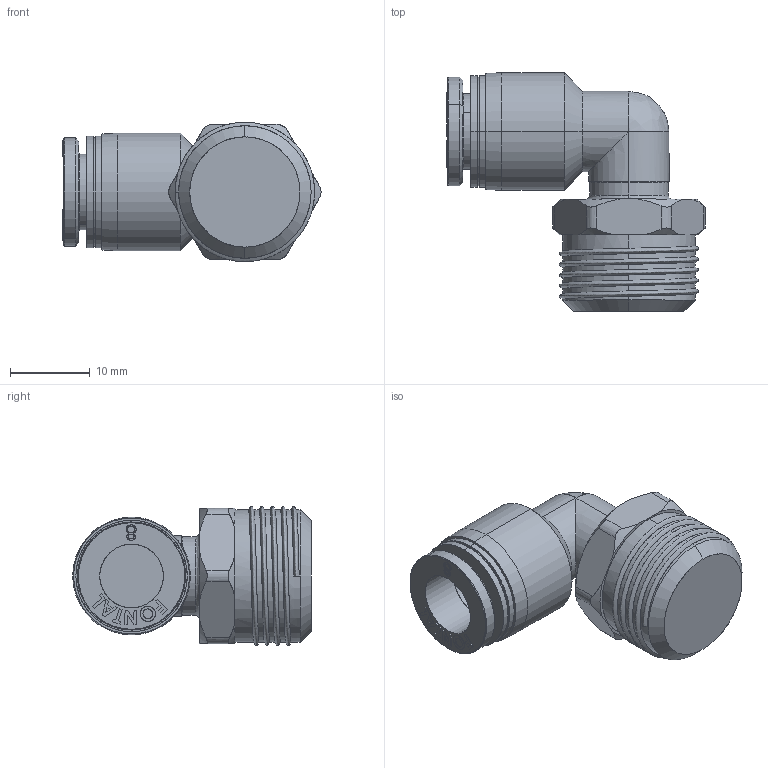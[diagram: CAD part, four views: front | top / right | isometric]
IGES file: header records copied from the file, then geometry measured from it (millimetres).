
Start section: SolidWorks IGES file using analytic representation for surfaces
Global section: file name: D:\Custom\3D繪製\ADDITIONAL\FPL\FPL8-03.IGS,1; native system: 5HSolidWorks 2014; preprocessor: SolidWorks 2014; author: Chieh_Lu; date: 160115.050332; units: millimetre
Bounding box: 32.46 x 30 x 17.51 mm (x, y, z)
Surface area: 3591.9 mm2 (no closed solid volume)
Topology: 0 solids, 0 shells, 175 faces, 2167 edges, 2158 vertices
Faces by surface type: bspline 113, revolution 62
